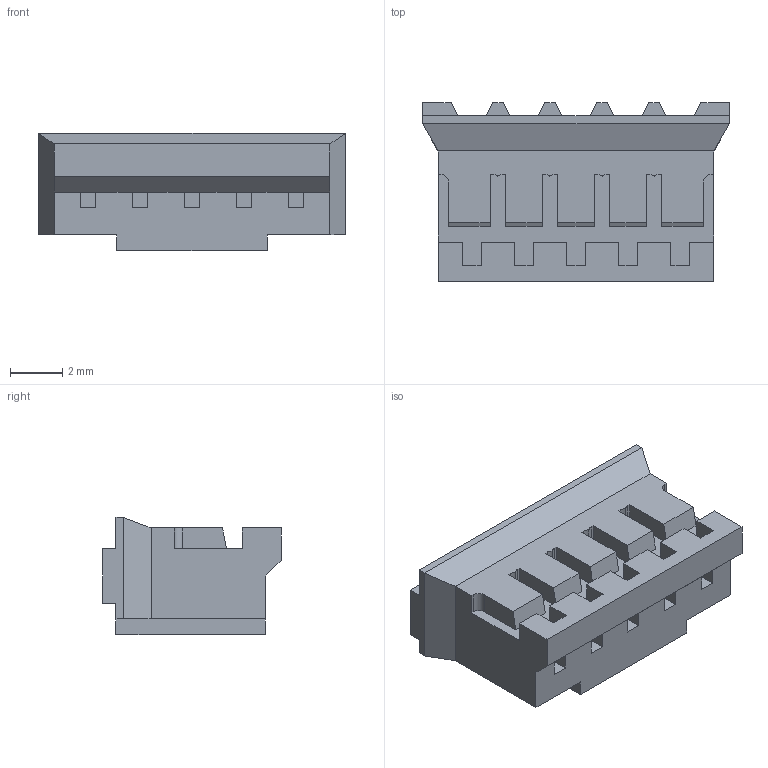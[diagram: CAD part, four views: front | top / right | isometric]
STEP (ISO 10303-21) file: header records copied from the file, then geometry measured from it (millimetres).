
FILE_DESCRIPTION (( 'STEP AP214' ), '1' );
FILE_NAME ('PHR-5.STEP', '2011-05-17T11:28:06', ( 'vpeshkov' ), ( 'licard' ), 'SwSTEP 2.0', 'SolidWorks 2009', '' );
FILE_SCHEMA (( 'AUTOMOTIVE_DESIGN' ));
Length unit declared in the file: millimetre
Products named in the file (1): PHR-5
Bounding box: 11.8 x 6.85 x 4.5 mm (x, y, z)
Volume: 216 mm3; surface area: 424 mm2
Topology: 1 solids, 1 shells, 155 faces, 425 edges, 272 vertices
Faces by surface type: plane 145, cylinder 10
Entity records: 4821 total; most frequent: CARTESIAN_POINT 853, ORIENTED_EDGE 850, DIRECTION 757, EDGE_CURVE 425, VECTOR 405, LINE 405, VERTEX_POINT 272, AXIS2_PLACEMENT_3D 176
